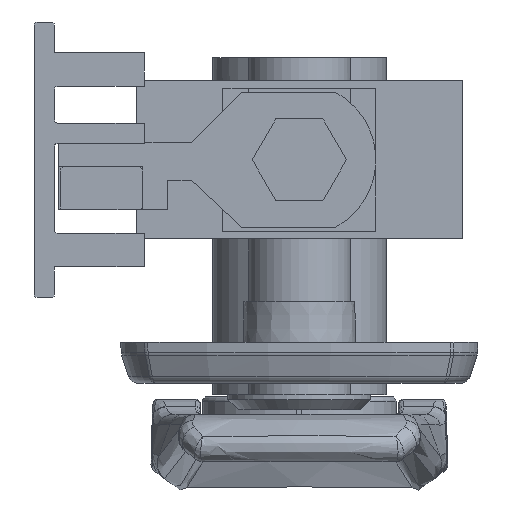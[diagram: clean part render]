
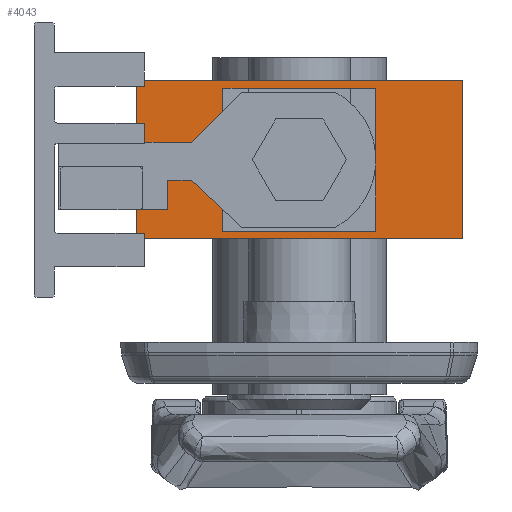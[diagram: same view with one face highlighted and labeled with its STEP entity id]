
A CAD part, front view. The second image highlights one B-rep face of the part: STEP entity #4043.
In plain terms, the highlighted planar face has unit normal (0, -1, 0).
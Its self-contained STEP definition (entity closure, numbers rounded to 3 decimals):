
#932 = LINE ( 'NONE', #16538, #3639 ) ;
#1194 = CARTESIAN_POINT ( 'NONE',  ( -7., -199.25, -6.25 ) ) ;
#1769 = ORIENTED_EDGE ( 'NONE', *, *, #19104, .F. ) ;
#1981 = ORIENTED_EDGE ( 'NONE', *, *, #5656, .T. ) ;
#2134 = CARTESIAN_POINT ( 'NONE',  ( 16., -199.25, -7.75 ) ) ;
#2489 = LINE ( 'NONE', #18457, #29103 ) ;
#3155 = LINE ( 'NONE', #16236, #4092 ) ;
#3639 = VECTOR ( 'NONE', #27331, 1000. ) ;
#4043 = ADVANCED_FACE ( 'NONE', ( #6738, #17273 ), #6916, .F. ) ;
#4092 = VECTOR ( 'NONE', #28879, 1000. ) ;
#4115 = DIRECTION ( 'NONE',  ( -1., 0., 0. ) ) ;
#4187 = DIRECTION ( 'NONE',  ( 0., 0., 1. ) ) ;
#4839 = ORIENTED_EDGE ( 'NONE', *, *, #10490, .F. ) ;
#5577 = VERTEX_POINT ( 'NONE', #29573 ) ;
#5656 = EDGE_CURVE ( 'NONE', #32471, #14925, #6021, .T. ) ;
#5677 = VECTOR ( 'NONE', #4115, 1000. ) ;
#6021 = LINE ( 'NONE', #11287, #15596 ) ;
#6273 = LINE ( 'NONE', #1194, #12836 ) ;
#6738 = FACE_BOUND ( 'NONE', #7763, .T. ) ;
#6916 = PLANE ( 'NONE',  #14710 ) ;
#7763 = EDGE_LOOP ( 'NONE', ( #29111, #1769, #29345, #21704 ) ) ;
#8507 = VECTOR ( 'NONE', #32742, 1000. ) ;
#9437 = DIRECTION ( 'NONE',  ( 0., 1., 0. ) ) ;
#9880 = LINE ( 'NONE', #30007, #5677 ) ;
#10490 = EDGE_CURVE ( 'NONE', #19974, #12839, #12959, .T. ) ;
#11287 = CARTESIAN_POINT ( 'NONE',  ( -16., -199.25, -7.75 ) ) ;
#11538 = DIRECTION ( 'NONE',  ( 0., 0., -1. ) ) ;
#12066 = EDGE_CURVE ( 'NONE', #20067, #27408, #6273, .T. ) ;
#12836 = VECTOR ( 'NONE', #11538, 1000. ) ;
#12839 = VERTEX_POINT ( 'NONE', #21087 ) ;
#12858 = DIRECTION ( 'NONE',  ( 0., 0., -1. ) ) ;
#12959 = LINE ( 'NONE', #13106, #23538 ) ;
#13106 = CARTESIAN_POINT ( 'NONE',  ( -16., -199.25, 7.75 ) ) ;
#13477 = DIRECTION ( 'NONE',  ( 1., 0., 0. ) ) ;
#14710 = AXIS2_PLACEMENT_3D ( 'NONE', #32438, #9437, #4187 ) ;
#14925 = VERTEX_POINT ( 'NONE', #2134 ) ;
#15596 = VECTOR ( 'NONE', #13477, 1000. ) ;
#16199 = EDGE_CURVE ( 'NONE', #12839, #14925, #2489, .T. ) ;
#16236 = CARTESIAN_POINT ( 'NONE',  ( -7., -199.25, -6.25 ) ) ;
#16538 = CARTESIAN_POINT ( 'NONE',  ( -16., -199.25, 7.75 ) ) ;
#17006 = ORIENTED_EDGE ( 'NONE', *, *, #16199, .F. ) ;
#17273 = FACE_OUTER_BOUND ( 'NONE', #23323, .T. ) ;
#18416 = EDGE_CURVE ( 'NONE', #27408, #29951, #3155, .T. ) ;
#18457 = CARTESIAN_POINT ( 'NONE',  ( 16., -199.25, 7.75 ) ) ;
#19104 = EDGE_CURVE ( 'NONE', #5577, #20067, #9880, .T. ) ;
#19411 = CARTESIAN_POINT ( 'NONE',  ( -16., -199.25, -7.75 ) ) ;
#19974 = VERTEX_POINT ( 'NONE', #22526 ) ;
#20067 = VERTEX_POINT ( 'NONE', #30110 ) ;
#20304 = EDGE_CURVE ( 'NONE', #19974, #32471, #932, .T. ) ;
#20608 = ORIENTED_EDGE ( 'NONE', *, *, #20304, .T. ) ;
#21087 = CARTESIAN_POINT ( 'NONE',  ( 16., -199.25, 7.75 ) ) ;
#21704 = ORIENTED_EDGE ( 'NONE', *, *, #18416, .F. ) ;
#22109 = CARTESIAN_POINT ( 'NONE',  ( -7., -199.25, -6.25 ) ) ;
#22526 = CARTESIAN_POINT ( 'NONE',  ( -16., -199.25, 7.75 ) ) ;
#23323 = EDGE_LOOP ( 'NONE', ( #1981, #17006, #4839, #20608 ) ) ;
#23538 = VECTOR ( 'NONE', #25807, 1000. ) ;
#25807 = DIRECTION ( 'NONE',  ( 1., 0., 0. ) ) ;
#26298 = CARTESIAN_POINT ( 'NONE',  ( 7., -199.25, -6.25 ) ) ;
#27331 = DIRECTION ( 'NONE',  ( 0., 0., -1. ) ) ;
#27408 = VERTEX_POINT ( 'NONE', #22109 ) ;
#28879 = DIRECTION ( 'NONE',  ( 1., 0., 0. ) ) ;
#29103 = VECTOR ( 'NONE', #12858, 1000. ) ;
#29111 = ORIENTED_EDGE ( 'NONE', *, *, #12066, .F. ) ;
#29345 = ORIENTED_EDGE ( 'NONE', *, *, #31348, .F. ) ;
#29573 = CARTESIAN_POINT ( 'NONE',  ( 7., -199.25, 6.25 ) ) ;
#29887 = LINE ( 'NONE', #30386, #8507 ) ;
#29951 = VERTEX_POINT ( 'NONE', #26298 ) ;
#30007 = CARTESIAN_POINT ( 'NONE',  ( 7., -199.25, 6.25 ) ) ;
#30110 = CARTESIAN_POINT ( 'NONE',  ( -7., -199.25, 6.25 ) ) ;
#30386 = CARTESIAN_POINT ( 'NONE',  ( 7., -199.25, 6.25 ) ) ;
#31348 = EDGE_CURVE ( 'NONE', #29951, #5577, #29887, .T. ) ;
#32438 = CARTESIAN_POINT ( 'NONE',  ( -16., -199.25, 7.75 ) ) ;
#32471 = VERTEX_POINT ( 'NONE', #19411 ) ;
#32742 = DIRECTION ( 'NONE',  ( 0., 0., 1. ) ) ;
